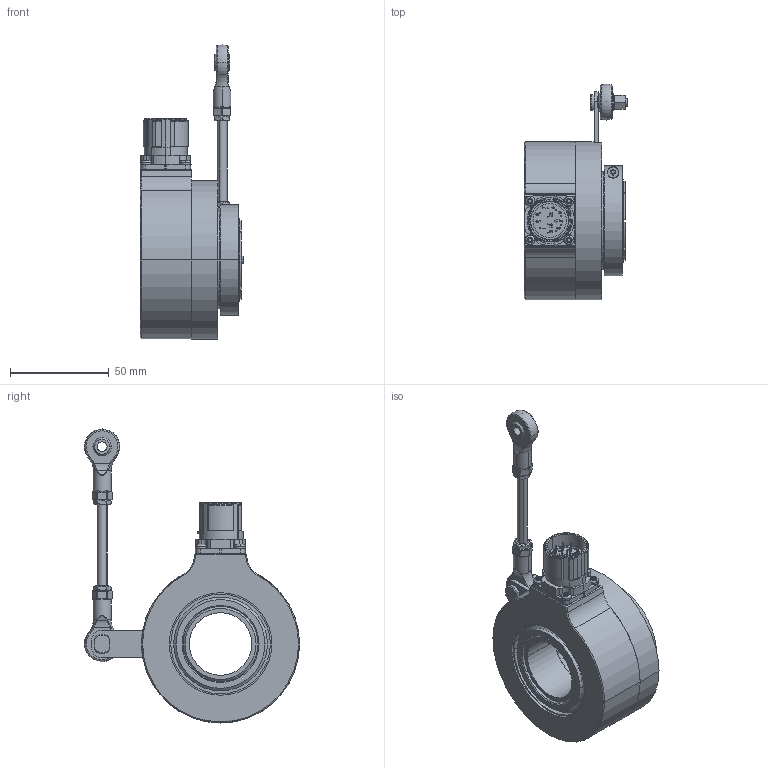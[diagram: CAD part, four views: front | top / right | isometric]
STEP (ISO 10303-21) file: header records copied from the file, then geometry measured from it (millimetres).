
FILE_DESCRIPTION (( 'STEP AP203' ), '1' );
FILE_NAME ('K80I.OXX.XXXXX.XH2689A.6XRC4.step', '2025-12-09T12:34:06', ( '' ), ( '' ), 'SwSTEP 2.0', 'SolidWorks 2021', '' );
FILE_SCHEMA (( 'CONFIG_CONTROL_DESIGN' ));
Length unit declared in the file: millimetre
Products named in the file (1): K80I.OXX.XXXXX.XH2689A.6XRC4
Bounding box: 52.7 x 109.11 x 149.07 mm (x, y, z)
Volume: 203502.5 mm3; surface area: 76997.8 mm2
Topology: 15 solids, 15 shells, 1068 faces, 2755 edges, 1730 vertices
Faces by surface type: plane 380, cylinder 343, bspline 148, cone 97, torus 52, sphere 48
Entity records: 39812 total; most frequent: CARTESIAN_POINT 14516, ORIENTED_EDGE 5374, DIRECTION 5150, EDGE_CURVE 2687, AXIS2_PLACEMENT_3D 1971, VERTEX_POINT 1723, VECTOR 1208, LINE 1208
